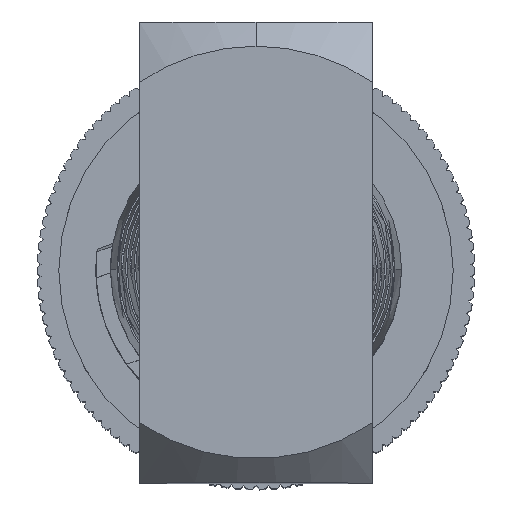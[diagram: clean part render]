
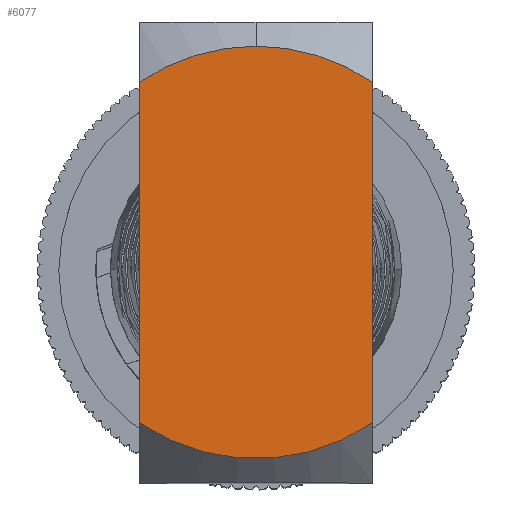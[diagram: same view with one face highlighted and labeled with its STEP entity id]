
A CAD part, top view. The second image highlights one B-rep face of the part: STEP entity #6077.
In plain terms, the highlighted planar face has unit normal (0, 0, 1).
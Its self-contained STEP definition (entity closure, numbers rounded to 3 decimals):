
#2205 = CARTESIAN_POINT ( 'NONE',  ( 0., 0., 225.889 ) ) ;
#2565 = CARTESIAN_POINT ( 'NONE',  ( 0., 4.25, 225.889 ) ) ;
#2627 = CARTESIAN_POINT ( 'NONE',  ( -2.4, 3.507, 225.889 ) ) ;
#2711 = CIRCLE ( 'NONE', #13260, 4.25 ) ;
#4522 = DIRECTION ( 'NONE',  ( 0., -1., 0. ) ) ;
#4610 = ORIENTED_EDGE ( 'NONE', *, *, #10438, .T. ) ;
#4656 = VECTOR ( 'NONE', #13305, 1000. ) ;
#4968 = PLANE ( 'NONE',  #5047 ) ;
#5047 = AXIS2_PLACEMENT_3D ( 'NONE', #7414, #23776, #9784 ) ;
#5688 = AXIS2_PLACEMENT_3D ( 'NONE', #8990, #25332, #11364 ) ;
#6077 = ADVANCED_FACE ( 'NONE', ( #6367 ), #4968, .F. ) ;
#6315 = CARTESIAN_POINT ( 'NONE',  ( 0., 0., 225.889 ) ) ;
#6367 = FACE_OUTER_BOUND ( 'NONE', #22764, .T. ) ;
#7115 = EDGE_CURVE ( 'NONE', #26883, #28260, #9873, .T. ) ;
#7414 = CARTESIAN_POINT ( 'NONE',  ( 0., 0., 225.889 ) ) ;
#7912 = CARTESIAN_POINT ( 'NONE',  ( 2.4, 3.507, 225.889 ) ) ;
#8666 = DIRECTION ( 'NONE',  ( 0., -1., 0. ) ) ;
#8802 = VERTEX_POINT ( 'NONE', #25668 ) ;
#8990 = CARTESIAN_POINT ( 'NONE',  ( 0., 0., 225.889 ) ) ;
#9784 = DIRECTION ( 'NONE',  ( 0., 1., 0. ) ) ;
#9873 = LINE ( 'NONE', #20510, #21577 ) ;
#10438 = EDGE_CURVE ( 'NONE', #26883, #20957, #17125, .T. ) ;
#10925 = LINE ( 'NONE', #22574, #4656 ) ;
#11364 = DIRECTION ( 'NONE',  ( 0., -1., 0. ) ) ;
#12470 = EDGE_CURVE ( 'NONE', #20957, #21480, #26642, .T. ) ;
#13090 = ORIENTED_EDGE ( 'NONE', *, *, #12470, .T. ) ;
#13260 = AXIS2_PLACEMENT_3D ( 'NONE', #6315, #22648, #8666 ) ;
#13305 = DIRECTION ( 'NONE',  ( 0., 1., 0. ) ) ;
#14835 = AXIS2_PLACEMENT_3D ( 'NONE', #2205, #18590, #4522 ) ;
#16644 = ORIENTED_EDGE ( 'NONE', *, *, #26036, .F. ) ;
#17125 = CIRCLE ( 'NONE', #14835, 4.25 ) ;
#18590 = DIRECTION ( 'NONE',  ( 0., 0., 1. ) ) ;
#19120 = ORIENTED_EDGE ( 'NONE', *, *, #26475, .T. ) ;
#19350 = ORIENTED_EDGE ( 'NONE', *, *, #7115, .F. ) ;
#20510 = CARTESIAN_POINT ( 'NONE',  ( 2.4, 4.75, 225.889 ) ) ;
#20957 = VERTEX_POINT ( 'NONE', #2565 ) ;
#21480 = VERTEX_POINT ( 'NONE', #2627 ) ;
#21577 = VECTOR ( 'NONE', #22792, 1000. ) ;
#21829 = CARTESIAN_POINT ( 'NONE',  ( 2.4, -3.507, 225.889 ) ) ;
#22574 = CARTESIAN_POINT ( 'NONE',  ( -2.4, 4.75, 225.889 ) ) ;
#22648 = DIRECTION ( 'NONE',  ( 0., 0., 1. ) ) ;
#22764 = EDGE_LOOP ( 'NONE', ( #19120, #19350, #4610, #13090, #16644 ) ) ;
#22792 = DIRECTION ( 'NONE',  ( 0., -1., 0. ) ) ;
#23776 = DIRECTION ( 'NONE',  ( 0., 0., -1. ) ) ;
#25332 = DIRECTION ( 'NONE',  ( 0., 0., 1. ) ) ;
#25668 = CARTESIAN_POINT ( 'NONE',  ( -2.4, -3.507, 225.889 ) ) ;
#26036 = EDGE_CURVE ( 'NONE', #8802, #21480, #10925, .T. ) ;
#26475 = EDGE_CURVE ( 'NONE', #8802, #28260, #2711, .T. ) ;
#26642 = CIRCLE ( 'NONE', #5688, 4.25 ) ;
#26883 = VERTEX_POINT ( 'NONE', #7912 ) ;
#28260 = VERTEX_POINT ( 'NONE', #21829 ) ;
